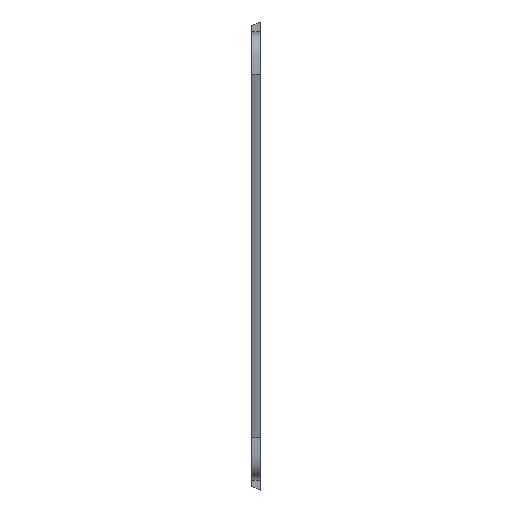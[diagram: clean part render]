
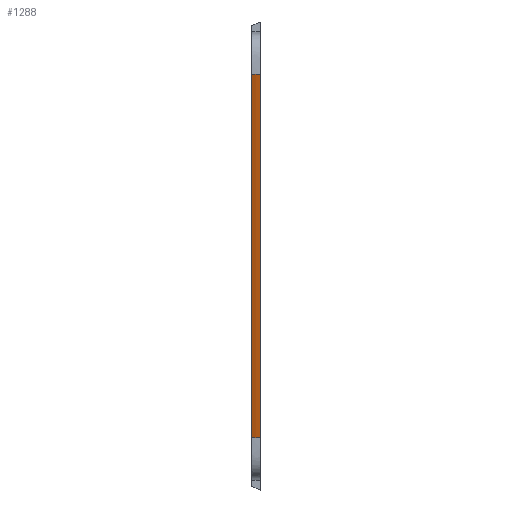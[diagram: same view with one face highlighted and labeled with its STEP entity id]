
A CAD part, front view. The second image highlights one B-rep face of the part: STEP entity #1288.
In plain terms, the highlighted free-form (B-spline) face has degree [3, 1] with [7, 2] control points.
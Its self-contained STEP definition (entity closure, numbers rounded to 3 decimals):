
#30=B_SPLINE_CURVE_WITH_KNOTS('',3,(#2460,#2461,#2462,#2463,#2464,#2465,
#2466),.UNSPECIFIED.,.F.,.F.,(4,3,4),(-0.4,-0.21,
0.),.UNSPECIFIED.);
#46=B_SPLINE_CURVE_WITH_KNOTS('',3,(#3193,#3194,#3195,#3196,#3197,#3198,
#3199),.UNSPECIFIED.,.F.,.F.,(4,3,4),(-0.396,-0.189,
0.),.UNSPECIFIED.);
#58=B_SPLINE_SURFACE_WITH_KNOTS('',3,1,((#3178,#3179),(#3180,#3181),(#3182,
#3183),(#3184,#3185),(#3186,#3187),(#3188,#3189),(#3190,#3191)),
 .UNSPECIFIED.,.F.,.F.,.F.,(4,3,4),(2,2),(0.237,0.327,
0.425),(-7.75,7.75),.UNSPECIFIED.);
#169=LINE('',#2863,#233);
#185=LINE('',#3200,#249);
#233=VECTOR('',#1717,10.);
#249=VECTOR('',#1803,10.);
#346=FACE_OUTER_BOUND('',#445,.T.);
#445=EDGE_LOOP('',(#1161,#1162,#1163,#1164));
#597=VERTEX_POINT('',#2457);
#598=VERTEX_POINT('',#2459);
#639=VERTEX_POINT('',#2861);
#664=VERTEX_POINT('',#3192);
#740=EDGE_CURVE('',#598,#597,#30,.T.);
#801=EDGE_CURVE('',#639,#597,#169,.T.);
#842=EDGE_CURVE('',#664,#639,#46,.F.);
#843=EDGE_CURVE('',#664,#598,#185,.T.);
#1161=ORIENTED_EDGE('',*,*,#801,.F.);
#1162=ORIENTED_EDGE('',*,*,#842,.F.);
#1163=ORIENTED_EDGE('',*,*,#843,.T.);
#1164=ORIENTED_EDGE('',*,*,#740,.T.);
#1288=ADVANCED_FACE('',(#346),#58,.T.);
#1717=DIRECTION('',(0.,0.,1.));
#1803=DIRECTION('',(0.,0.,1.));
#2457=CARTESIAN_POINT('',(151.4,-85.247,91.3));
#2459=CARTESIAN_POINT('',(155.,-86.936,91.3));
#2460=CARTESIAN_POINT('Ctrl Pts',(155.,-86.936,91.3));
#2461=CARTESIAN_POINT('Ctrl Pts',(154.388,-86.715,91.3));
#2462=CARTESIAN_POINT('Ctrl Pts',(153.79,-86.465,91.3));
#2463=CARTESIAN_POINT('Ctrl Pts',(153.214,-86.195,91.3));
#2464=CARTESIAN_POINT('Ctrl Pts',(152.583,-85.898,91.3));
#2465=CARTESIAN_POINT('Ctrl Pts',(151.979,-85.578,91.3));
#2466=CARTESIAN_POINT('Ctrl Pts',(151.4,-85.247,91.3));
#2861=CARTESIAN_POINT('',(151.4,-85.247,-63.3));
#2863=CARTESIAN_POINT('',(151.4,-85.247,14.));
#3178=CARTESIAN_POINT('Ctrl Pts',(155.,-86.936,91.5));
#3179=CARTESIAN_POINT('Ctrl Pts',(155.,-86.936,-63.5));
#3180=CARTESIAN_POINT('Ctrl Pts',(154.388,-86.715,91.5));
#3181=CARTESIAN_POINT('Ctrl Pts',(154.388,-86.715,-63.5));
#3182=CARTESIAN_POINT('Ctrl Pts',(153.79,-86.465,91.5));
#3183=CARTESIAN_POINT('Ctrl Pts',(153.79,-86.465,-63.5));
#3184=CARTESIAN_POINT('Ctrl Pts',(153.214,-86.195,91.5));
#3185=CARTESIAN_POINT('Ctrl Pts',(153.214,-86.195,-63.5));
#3186=CARTESIAN_POINT('Ctrl Pts',(152.583,-85.898,91.5));
#3187=CARTESIAN_POINT('Ctrl Pts',(152.583,-85.898,-63.5));
#3188=CARTESIAN_POINT('Ctrl Pts',(151.979,-85.578,91.5));
#3189=CARTESIAN_POINT('Ctrl Pts',(151.979,-85.578,-63.5));
#3190=CARTESIAN_POINT('Ctrl Pts',(151.4,-85.247,91.5));
#3191=CARTESIAN_POINT('Ctrl Pts',(151.4,-85.247,-63.5));
#3192=CARTESIAN_POINT('',(155.,-86.936,-63.3));
#3193=CARTESIAN_POINT('Ctrl Pts',(151.4,-85.247,-63.3));
#3194=CARTESIAN_POINT('Ctrl Pts',(151.979,-85.578,-63.3));
#3195=CARTESIAN_POINT('Ctrl Pts',(152.583,-85.898,-63.3));
#3196=CARTESIAN_POINT('Ctrl Pts',(153.214,-86.195,-63.3));
#3197=CARTESIAN_POINT('Ctrl Pts',(153.79,-86.465,-63.3));
#3198=CARTESIAN_POINT('Ctrl Pts',(154.388,-86.715,-63.3));
#3199=CARTESIAN_POINT('Ctrl Pts',(155.,-86.936,-63.3));
#3200=CARTESIAN_POINT('',(155.,-86.936,14.));
